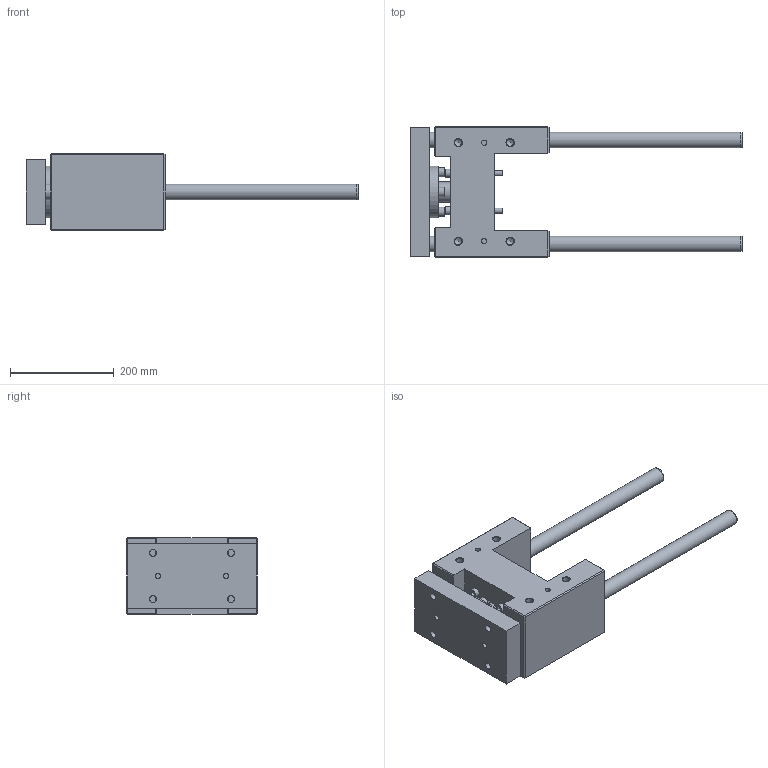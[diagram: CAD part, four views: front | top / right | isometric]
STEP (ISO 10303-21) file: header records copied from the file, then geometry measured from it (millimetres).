
FILE_DESCRIPTION( ( 'STEP AP214' ), '1' );
FILE_NAME( 'U:/Etudes/Top Solid/BIBLIO 3D AVM/TOP/PNEUMATIQUE/GUIDAGES/Type 32 (en H)/R_Renforcée/328R6230.step', '2005-05-27T09:15:32', ( ' ' ), ( ' ' ), 'XStep 1.0', ' ', ' ' );
FILE_SCHEMA( ( 'automotive_design' ) );
Length unit declared in the file: metre
Products named in the file (2): 1; 2
Bounding box: 640 x 252 x 148 mm (x, y, z)
Volume: 6843739.8 mm3; surface area: 575638.4 mm2
Topology: 2 solids, 7 shells, 239 faces, 527 edges, 341 vertices
Faces by surface type: plane 149, cylinder 69, cone 21
Full cylindrical faces by diameter (mm): 10 x12, 10.106 x4, 11 x4, 12 x8, 13 x8, 13.835 x8, 16 x4, 18 x4, 18.376 x2, 20 x4, 30 x4, 39 x1, 42 x1, 45 x1, 57 x1, 60 x1, 65 x1, 100 x1
Entity records: 7933 total; most frequent: CARTESIAN_POINT 1201, DIRECTION 1000, ORIENTED_EDGE 786, EDGE_CURVE 393, EDGE_LOOP 392, AXIS2_PLACEMENT_3D 374, FACE_OUTER_BOUND 308, VERTEX_POINT 303
